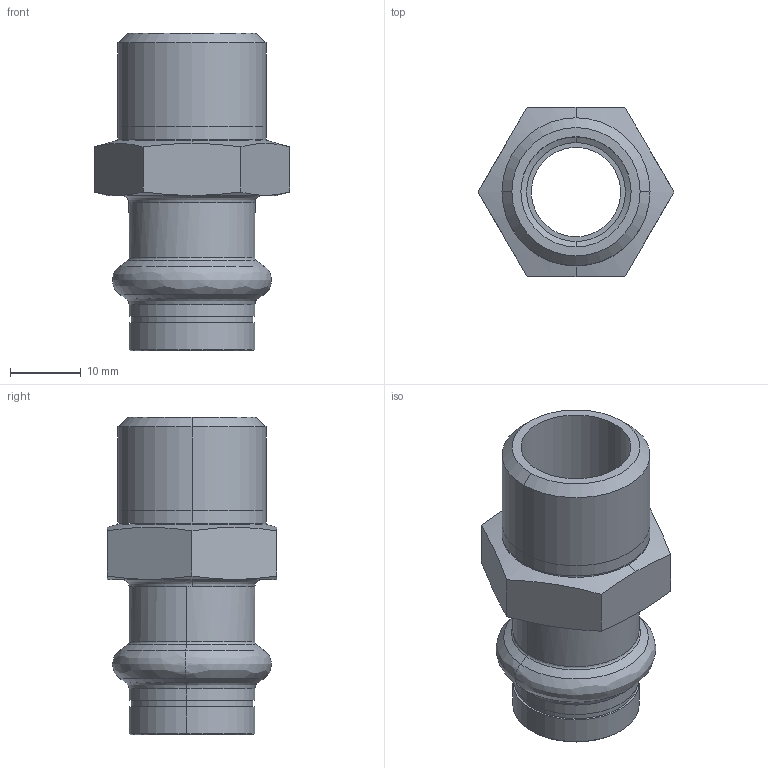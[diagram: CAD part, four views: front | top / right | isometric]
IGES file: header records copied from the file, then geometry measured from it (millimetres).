
Start section: Elysium IGES Interface
Global section: file name: C:\Users\Wallenburg\Desktop\3d modellen sudo\S-Pr VP\SP6243GV\6243GVW1512.igs; native system: CoCreate Modeling 17.00A  17-Jun-2010; preprocessor: CoCreate IGES_3D V2.2; author: Unknown; organization: Unknown; date: 20130124.132748; units: millimetre
Bounding box: 27.71 x 24 x 45 mm (x, y, z)
Volume: 6812.7 mm3; surface area: 5878.9 mm2
Topology: 1 solids, 1 shells, 67 faces, 146 edges, 86 vertices
Faces by surface type: bspline 67
